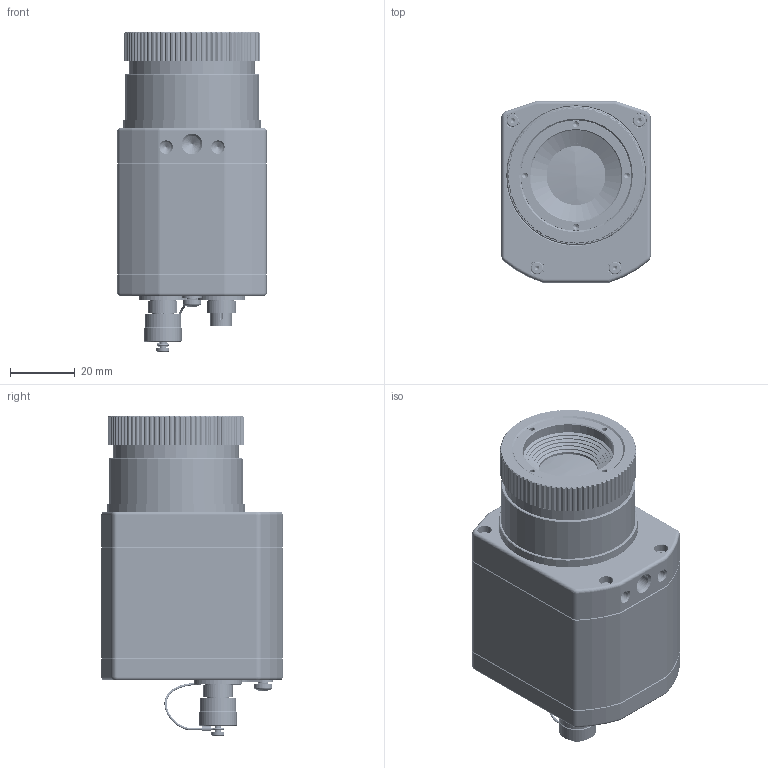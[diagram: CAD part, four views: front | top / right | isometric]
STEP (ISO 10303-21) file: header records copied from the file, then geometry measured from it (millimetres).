
FILE_DESCRIPTION (( 'STEP AP214' ), '1' );
FILE_NAME ('9P510-A PI-1M-F25-dim.STEP', '2023-01-11T12:47:01', ( '' ), ( '' ), 'SwSTEP 2.0', 'SolidWorks 2021', '' );
FILE_SCHEMA (( 'AUTOMOTIVE_DESIGN' ));
Length unit declared in the file: millimetre
Products named in the file (24): 9P180-D Objektiv F25mm; 1P193-C Abschlussring F25mm; 1P202-X Verbindungsrohr-PI3-XXX_1P102-1; 63038 O-Ring 41 x 1_O-Ring 38 x 1,5; 51099 Schutzkappe-712 FS_F〉 Pi 640; 9P219-X Rückwand PI-3; 51095 Flanschstecker 712; 5-polig; 1R081-1-B Linse 2 F25 xM; 61301 Linsenschraube DIN 7985 VZ M3x5_Linsenschraube KS DIN 7985 VZ M3x5; 54250 Temperaturaufkleber; 63011 O-Ring 20x1_O-Ring 20 x 1; 63162 O-Ring 37 x 1,5_O-Ring 38 x 1,5; 1P203-X Heckplatte-PI3-XXX; 1P210 Objektivhaltering-PI3; 63169-f O-Ring NBR 53 x 1,5; 9P510-A PI-1M-F25-dim; 61220 Zylinderschraube ISK DIN 912-A2 M2x10_DIN 912 M3 x 5 --- 5S; 51093 Flanschstecker 712; 5-1polig; 1P201-X Frontplatte-PI3S-XXX; 1P190-D Objektivtubus F25; 63031 O-Ring 30,5x1_O-Ring 30,5 x 1; 61103 Linsenschraube KS DIN 7985 A2 M1,6x4_ISO 7045 - M1.6 x 4 - Z --- 4S; 1P189-B Schraubring F25; 63169-ff O-Ring NBR 53 x 1,5
Assembly tree (32 placements, depth 3):
  9P510-A PI-1M-F25-dim
    1P201-X Frontplatte-PI3S-XXX
    9P219-X Rückwand PI-3
      1P203-X Heckplatte-PI3-XXX
      51093 Flanschstecker 712; 5-1polig
      51095 Flanschstecker 712; 5-polig
      61301 Linsenschraube DIN 7985 VZ M3x5_Linsenschraube KS DIN 7985 VZ M3x5
      54250 Temperaturaufkleber
      51099 Schutzkappe-712 FS_F〉 Pi 640
      63169-f O-Ring NBR 53 x 1,5
    1P202-X Verbindungsrohr-PI3-XXX_1P102-1
    1P210 Objektivhaltering-PI3
    61103 Linsenschraube KS DIN 7985 A2 M1,6x4_ISO 7045 - M1.6 x 4 - Z --- 4S  x3
    61220 Zylinderschraube ISK DIN 912-A2 M2x10_DIN 912 M3 x 5 --- 5S  x8
    63038 O-Ring 41 x 1_O-Ring 38 x 1,5
    63169-ff O-Ring NBR 53 x 1,5
    9P180-D Objektiv F25mm
      1P190-D Objektivtubus F25
      63162 O-Ring 37 x 1,5_O-Ring 38 x 1,5
      1P189-B Schraubring F25
      1P193-C Abschlussring F25mm
      63011 O-Ring 20x1_O-Ring 20 x 1
      63031 O-Ring 30,5x1_O-Ring 30,5 x 1
      1R081-1-B Linse 2 F25 xM
Bounding box: 46 x 56 x 98.52 mm (x, y, z)
Volume: 73043.5 mm3; surface area: 64004.6 mm2
Topology: 30 solids, 41 shells, 3739 faces, 9533 edges, 5870 vertices
Faces by surface type: cone 1376, cylinder 1367, plane 688, torus 204, bspline 92, sphere 12
Entity records: 91280 total; most frequent: CARTESIAN_POINT 24950, DIRECTION 13869, ORIENTED_EDGE 13160, EDGE_CURVE 6589, AXIS2_PLACEMENT_3D 5587, VERTEX_POINT 4121, CIRCLE 3015, EDGE_LOOP 2797
